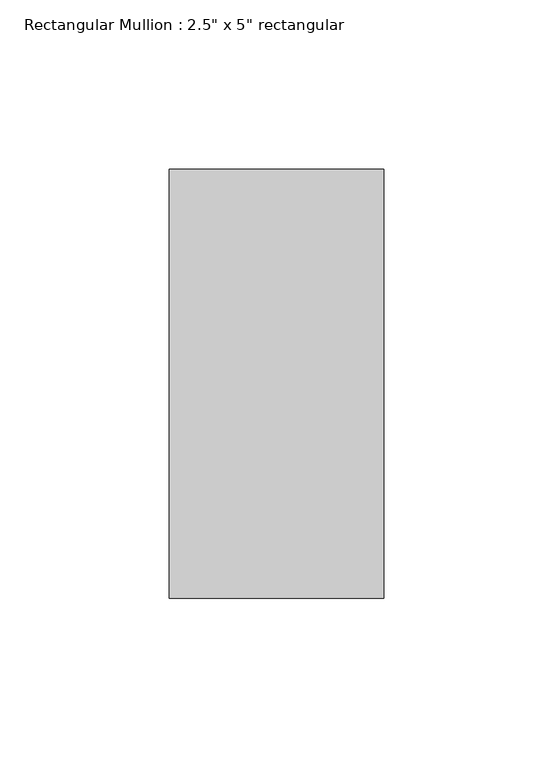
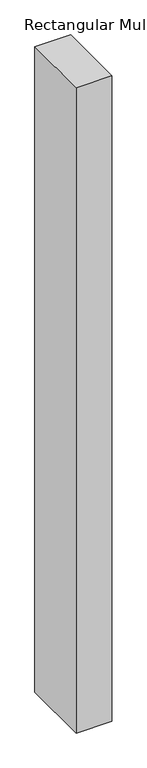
"""IFC4 building model written with IfcOpenShell, lengths in millimetres: member geometry."""

from ifc_helpers import new_model, si_unit, frame, origin, place, context, project, spatial, polyline, outline, extrude, source, transform, mapped, element, save


def member_107d35fd(model_context):
    return source(origin(), model_context, "Body", "SweptSolid", [
        extrude(outline(polyline([(0.0, 63.5), (0.0, -63.5), (-63.5, -63.5), (-63.5, 63.5), (0.0, 63.5)])), frame((0.0, 0.0, -1212.85), z_axis=(0.0, 0.0, 1.0), x_axis=(1.0, 0.0, 0.0)), (0.0, 0.0, 1.0), 1212.85),
    ])


if __name__ == "__main__":
    model = new_model("IFC4")
    model_context = context("Model", 3, world=origin())
    ifc_project = project(units=[si_unit("LENGTHUNIT", "METRE", prefix="MILLI")], contexts=[model_context])
    site = spatial("IfcSite", under=ifc_project)
    building = spatial("IfcBuilding", under=site)
    placement = place(None, origin())
    member_shape = member_107d35fd(model_context)
    element("IfcMember", 1, ObjectType="Rectangular Mullion : 2.5\" x 5\" rectangular", at=placement, inside=building, context=model_context, shape_type="MappedRepresentation", body=[
        mapped(member_shape, transform((0.0, 0.0, 0.0), x_axis=(1.0, 0.0, 0.0), y_axis=(0.0, 1.0, 0.0), z_axis=(0.0, 0.0, 1.0))),
    ])
    save(model, "model.ifc")
